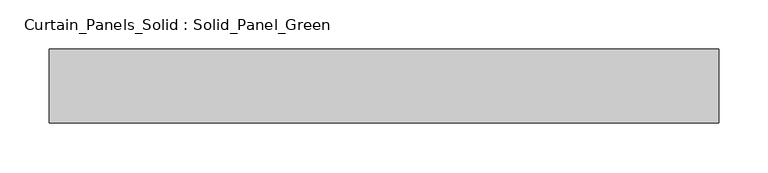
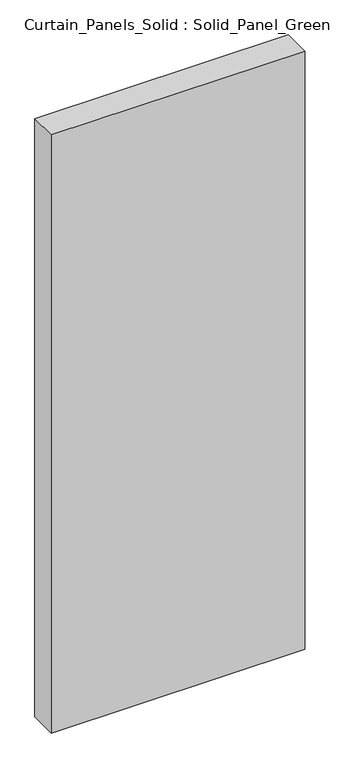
"""IFC4 building model written with IfcOpenShell, lengths in millimetres: plate geometry, Curtain_Panels_Solid : Solid_Panel_Green."""

import ifcopenshell
import ifcopenshell.guid

model = None  # the IFC model being written
_history = None  # IfcOwnerHistory: only IFC2X3 demands one
_inside = {}  # id of a spatial element -> (the spatial element, [elements in it])
_under = {}  # id of a project, library or spatial element -> (it, [spatial elements below it])
_declared = {}  # id of a project -> (the project, [libraries it declares])
_typed = {}  # id of a type object -> (the type object, [elements of that type])
_made_of = {}  # id of a material, layer set ... -> (it, [elements and type objects made of it])


def new_model(schema):
    """Start an empty IFC model of exactly this schema.

    Asked for "IFC4X3", IfcOpenShell would pick the latest addendum, in which some entities
    have other attributes; the version numbers below select the first issue.
    IFC2X3 requires an IfcOwnerHistory on every rooted entity: one is made here for all.
    """
    global model, _history
    if schema == "IFC4X3":
        model = ifcopenshell.file(schema_version=(4, 3, 0, 0))
    else:
        model = ifcopenshell.file(schema=schema)
    _inside.clear()
    _under.clear()
    _declared.clear()
    _typed.clear()
    _made_of.clear()
    _history = None
    if model.schema == "IFC2X3":
        org = make("IfcOrganization", Name="unknown")
        user = make(
            "IfcPersonAndOrganization",
            ThePerson=make("IfcPerson", FamilyName="unknown"),
            TheOrganization=org,
        )
        app = make(
            "IfcApplication",
            ApplicationDeveloper=org,
            Version="unknown",
            ApplicationFullName="unknown",
            ApplicationIdentifier="unknown",
        )
        _history = make(
            "IfcOwnerHistory",
            OwningUser=user,
            OwningApplication=app,
            ChangeAction="ADDED",
            CreationDate=0,
        )
    return model


def make(cls, **values):
    """One entity of the class cls with the attributes given. An attribute that is None is left unset."""
    return model.create_entity(
        cls, **{name: value for name, value in values.items() if value is not None}
    )


def rooted(cls, **values):
    """An entity with a GlobalId (a new one), such as an element, a storey or a relation."""
    return make(cls, GlobalId=ifcopenshell.guid.new(), OwnerHistory=_history, **values)


def si_unit(unit_type, name, prefix=None):
    """IfcSIUnit, for example si_unit("LENGTHUNIT", "METRE", prefix="MILLI")."""
    return make("IfcSIUnit", UnitType=unit_type, Prefix=prefix, Name=name)


def assignment(units):
    """IfcUnitAssignment: the units of a project."""
    return None if units is None else make("IfcUnitAssignment", Units=units)


def point(xyz):
    """IfcCartesianPoint."""
    return None if xyz is None else make("IfcCartesianPoint", Coordinates=xyz)


def direction(xyz):
    """IfcDirection."""
    return None if xyz is None else make("IfcDirection", DirectionRatios=xyz)


def frame(location, z_axis=None, x_axis=None):
    """IfcAxis2Placement3D, a coordinate frame: its origin and axes. An axis left out is left unset."""
    return make(
        "IfcAxis2Placement3D",
        Location=point(location),
        Axis=direction(z_axis),
        RefDirection=direction(x_axis),
    )


def origin():
    """The frame at (0, 0, 0) with its axes left unset."""
    return frame((0.0, 0.0, 0.0))


def origin_with_axes():
    """The frame at (0, 0, 0) with the z axis (0, 0, 1) and the x axis (1, 0, 0) written out."""
    return frame((0.0, 0.0, 0.0), z_axis=(0.0, 0.0, 1.0), x_axis=(1.0, 0.0, 0.0))


def place(relative_to, where):
    """IfcLocalPlacement: puts the frame where relative to a parent placement (None: the world)."""
    return make(
        "IfcLocalPlacement", PlacementRelTo=relative_to, RelativePlacement=where
    )


def context(
    kind, dimensions, precision=None, world=None, true_north=None, identifier=None
):
    """IfcGeometricRepresentationContext, for example the 3D "Model" context."""
    return make(
        "IfcGeometricRepresentationContext",
        ContextIdentifier=identifier,
        ContextType=kind,
        CoordinateSpaceDimension=dimensions,
        Precision=precision,
        WorldCoordinateSystem=world,
        TrueNorth=true_north,
    )


def project(units=None, contexts=None):
    """IfcProject with its units and contexts."""
    return rooted(
        "IfcProject",
        Name="project",
        RepresentationContexts=contexts,
        UnitsInContext=assignment(units),
    )


def spatial(cls, under=None, at=None, **own):
    """A site, building, storey or space (cls), placed at a placement, below another one or the project."""
    s = rooted(cls, ObjectPlacement=at, **own)
    if under is not None:
        _under.setdefault(under.id(), (under, []))[1].append(s)
    return s


def polyline(points):
    """IfcPolyline through the points."""
    return make("IfcPolyline", Points=[point(p) for p in points])


def outline(outer, holes=None, kind="AREA"):
    """IfcArbitraryClosedProfileDef: a profile drawn as a closed curve; with holes, ...WithVoids."""
    if holes is None:
        return make("IfcArbitraryClosedProfileDef", ProfileType=kind, OuterCurve=outer)
    return make(
        "IfcArbitraryProfileDefWithVoids",
        ProfileType=kind,
        OuterCurve=outer,
        InnerCurves=holes,
    )


def extrude(swept, where, along, depth):
    """IfcExtrudedAreaSolid: the profile swept, set in the frame where, extruded along a direction by depth."""
    return make(
        "IfcExtrudedAreaSolid",
        SweptArea=swept,
        Position=where,
        ExtrudedDirection=direction(along),
        Depth=depth,
    )


def shape(context_of_items, identifier, shape_type, items):
    """IfcShapeRepresentation: the items that make up one representation, for example the "Body"."""
    return make(
        "IfcShapeRepresentation",
        ContextOfItems=context_of_items,
        RepresentationIdentifier=identifier,
        RepresentationType=shape_type,
        Items=items,
    )


def source(mapping_origin, context_of_items, identifier, shape_type, items):
    """IfcRepresentationMap: a shape defined once, which mapped items show again and again."""
    return make(
        "IfcRepresentationMap",
        MappingOrigin=mapping_origin,
        MappedRepresentation=shape(context_of_items, identifier, shape_type, items),
    )


def transform(
    local_origin,
    x_axis=None,
    y_axis=None,
    z_axis=None,
    scale=None,
    scale2=None,
    scale3=None,
    uniform=True,
):
    """IfcCartesianTransformationOperator3D, or its non-uniform kind. x_axis, y_axis, z_axis: its Axis1, 2, 3."""
    if uniform:
        return make(
            "IfcCartesianTransformationOperator3D",
            Axis1=direction(x_axis),
            Axis2=direction(y_axis),
            LocalOrigin=point(local_origin),
            Scale=scale,
            Axis3=direction(z_axis),
        )
    return make(
        "IfcCartesianTransformationOperator3DnonUniform",
        Axis1=direction(x_axis),
        Axis2=direction(y_axis),
        LocalOrigin=point(local_origin),
        Scale=scale,
        Axis3=direction(z_axis),
        Scale2=scale2,
        Scale3=scale3,
    )


def mapped(mapping_source, mapping_target):
    """IfcMappedItem: shows the shape of a source again, moved by a transform."""
    return make(
        "IfcMappedItem", MappingSource=mapping_source, MappingTarget=mapping_target
    )


def made_of(thing, what):
    """Note that an element or type object is made of a material, layer set ...; save() writes the relation."""
    if what is not None:
        _made_of.setdefault(what.id(), (what, []))[1].append(thing)
    return thing


def element(
    cls,
    number,
    at=None,
    inside=None,
    cuts=None,
    type_object=None,
    material=None,
    context=None,
    identifier="Body",
    shape_type=None,
    held_by="IfcProductDefinitionShape",
    body=None,
    shapes=None,
    **own,
):
    """One element of the class cls, such as IfcWall. Its Tag is "e" and its number.

    at: its placement. inside: the storey or other place that contains it. cuts: it is an
    opening in that element (IfcRelVoidsElement). A single representation is given by context,
    identifier, shape_type and body (its items); several are given by shapes. held_by: the class
    of the entity that holds the representations. save() writes the other relations.
    """
    e = rooted(cls, Tag="e%d" % number, ObjectPlacement=at, **own)
    if body is not None:
        shapes = [shape(context, identifier, shape_type, body)]
    if shapes is not None:
        e.Representation = make(held_by, Representations=shapes)
    if inside is not None:
        _inside.setdefault(inside.id(), (inside, []))[1].append(e)
    if cuts is not None:
        rooted(
            "IfcRelVoidsElement", RelatingBuildingElement=cuts, RelatedOpeningElement=e
        )
    if type_object is not None:
        _typed.setdefault(type_object.id(), (type_object, []))[1].append(e)
    return made_of(e, material)


def aggregate(whole, parts):
    """IfcRelAggregates: a whole, such as a stair, and the parts it consists of."""
    return rooted("IfcRelAggregates", RelatingObject=whole, RelatedObjects=parts)


def save(model, path):
    """Write the relations noted so far, then the file.

    IfcRelAggregates (storeys below a building ...), IfcRelContainedInSpatialStructure (elements
    in a storey), IfcRelDefinesByType, IfcRelAssociatesMaterial and IfcRelDeclares: one each for
    every whole, place, type object, material and project.
    """
    for whole, parts in _under.values():
        aggregate(whole, parts)
    for where, things in _inside.values():
        rooted(
            "IfcRelContainedInSpatialStructure",
            RelatedElements=things,
            RelatingStructure=where,
        )
    for kind, things in _typed.values():
        rooted("IfcRelDefinesByType", RelatedObjects=things, RelatingType=kind)
    for what, things in _made_of.values():
        rooted("IfcRelAssociatesMaterial", RelatedObjects=things, RelatingMaterial=what)
    for by, libraries in _declared.values():
        rooted("IfcRelDeclares", RelatingContext=by, RelatedDefinitions=libraries)
    model.write(path)


def curtain_panels_solid_solid_panel_green_bf3e8d7c(model_context):
    return source(origin(), model_context, "Body", "SweptSolid", [
        extrude(outline(polyline([(338.7500001, -25.0), (-338.7500001, -25.0), (-338.7500001, 50.0), (338.7500001, 50.0), (338.7500001, -25.0)])), origin_with_axes(), (0.0, 0.0, 1.0), 1690.0),
    ])


if __name__ == "__main__":
    model = new_model("IFC4")
    model_context = context("Model", 3, world=origin())
    ifc_project = project(units=[si_unit("LENGTHUNIT", "METRE", prefix="MILLI")], contexts=[model_context])
    site = spatial("IfcSite", under=ifc_project)
    building = spatial("IfcBuilding", under=site)
    placement = place(None, origin())
    curtain_panels_solid_solid_panel_green_shape = curtain_panels_solid_solid_panel_green_bf3e8d7c(model_context)
    element("IfcPlate", 1, ObjectType="Curtain_Panels_Solid : Solid_Panel_Green", at=placement, inside=building, context=model_context, shape_type="MappedRepresentation", body=[
        mapped(curtain_panels_solid_solid_panel_green_shape, transform((0.0, 0.0, 0.0), x_axis=(1.0, 0.0, 0.0), y_axis=(0.0, 1.0, 0.0), z_axis=(0.0, 0.0, 1.0))),
    ])
    save(model, "model.ifc")
